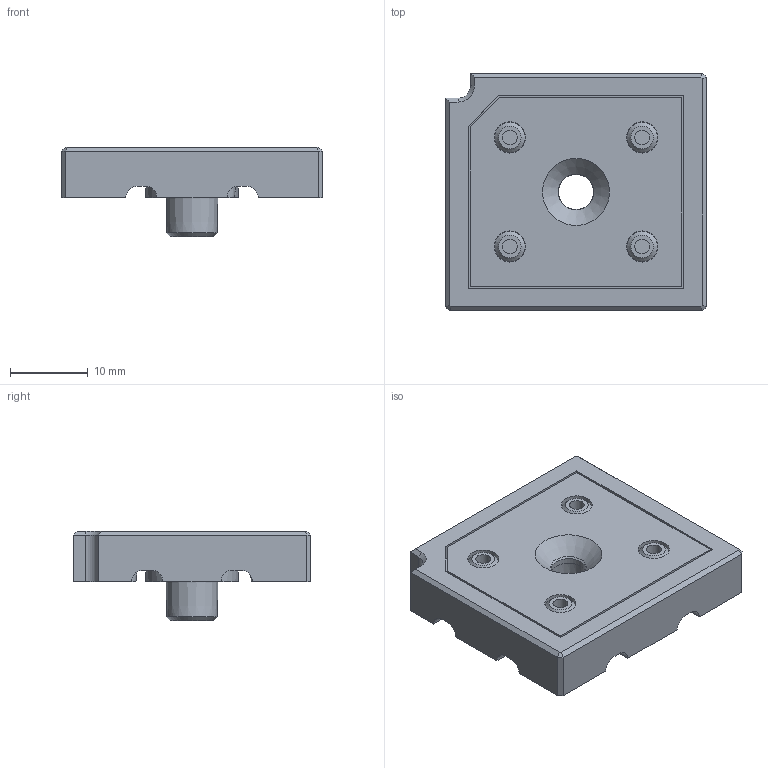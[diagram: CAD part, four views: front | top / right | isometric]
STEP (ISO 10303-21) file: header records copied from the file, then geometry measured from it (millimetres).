
FILE_DESCRIPTION( ( 'Unknown' ), '1' );
FILE_NAME( 'G:/_Mechanik/_SErajzok/K...(Semikron)/common/Druckdeckel/Skiip0/Exchange/V23990-K02-T-01.01-27.stp', 'Unknown', ( 'Unknown' ), ( 'Unknown' ), 'PSStep 17.0.49', 'Unknown', ' ' );
FILE_SCHEMA( ( 'AUTOMOTIVE_DESIGN { 1 0 10303 214 1 1 1 1 }' ) );
Length unit declared in the file: millimetre
Products named in the file (7): Assem1; Standard_lid_MiniSKiiP_II_0; Standard_lid_MiniSKiiP_II_0_4
Assembly tree (6 placements, depth 2):
  Assem1
    Standard_lid_MiniSKiiP_II_0
    Standard_lid_MiniSKiiP_II_0
    Standard_lid_MiniSKiiP_II_0
    Standard_lid_MiniSKiiP_II_0
    Standard_lid_MiniSKiiP_II_0
    Standard_lid_MiniSKiiP_II_0_4
Bounding box: 33.5 x 30.5 x 11.5 mm (x, y, z)
Volume: 4031.8 mm3; surface area: 5599.5 mm2
Topology: 6 solids, 6 shells, 344 faces, 810 edges, 485 vertices
Faces by surface type: plane 116, bspline 108, cylinder 76, cone 28, torus 11, sphere 5
Full cylindrical faces by diameter (mm): 1.9 x4, 2.98 x1, 3.9 x4, 4 x4, 4.5 x1, 6 x1
Entity records: 29317 total; most frequent: CARTESIAN_POINT 18317, ORIENTED_EDGE 1530, DIRECTION 1240, EDGE_CURVE 765, PRESENTATION_STYLE_ASSIGNMENT 639, COLOUR_RGB 639, AXIS2_PLACEMENT_3D 483, VERTEX_POINT 480
